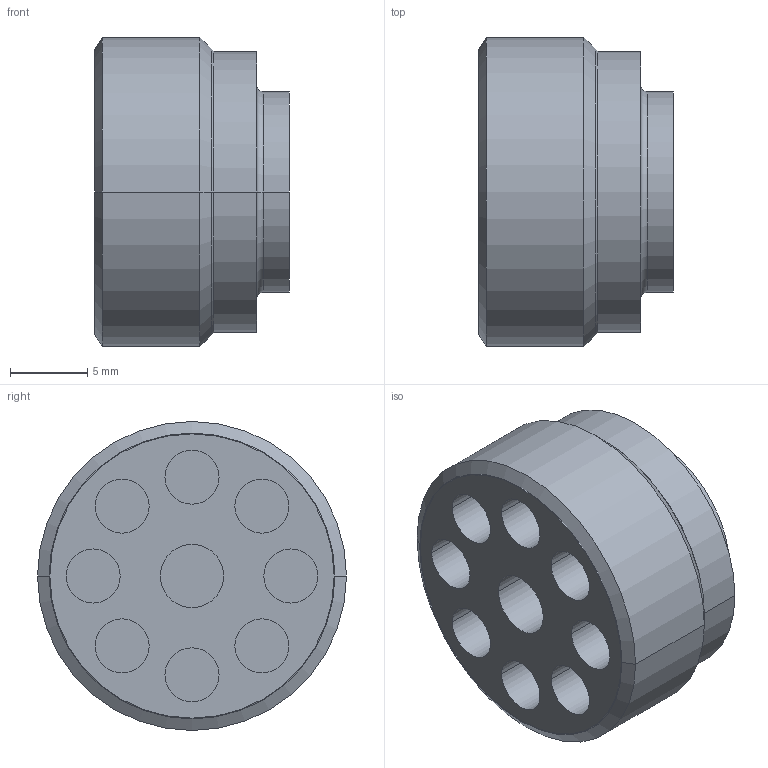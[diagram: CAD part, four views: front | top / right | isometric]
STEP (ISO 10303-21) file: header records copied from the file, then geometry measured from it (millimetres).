
FILE_DESCRIPTION((''),'2;1');
FILE_NAME('VJO1-10_SM-005','2020-11-27T',('l.soukupova'),(''),'PRO/ENGINEER BY PARAMETRIC TECHNOLOGY CORPORATION, 2015440','PRO/ENGINEER BY PARAMETRIC TECHNOLOGY CORPORATION, 2015440','');
FILE_SCHEMA(('AUTOMOTIVE_DESIGN { 1 0 10303 214 1 1 1 1 }'));
Length unit declared in the file: millimetre
Products named in the file (1): VJO1-10_SM-005
Bounding box: 12.6 x 20 x 20 mm (x, y, z)
Volume: 2544.6 mm3; surface area: 2513.3 mm2
Topology: 1 solids, 2 shells, 47 faces, 105 edges, 82 vertices
Faces by surface type: cylinder 28, plane 13, cone 4, torus 2
Entity records: 1714 total; most frequent: DIRECTION 263, CARTESIAN_POINT 215, ORIENTED_EDGE 184, AXIS2_PLACEMENT_3D 110, PRESENTATION_STYLE_ASSIGNMENT 108, STYLED_ITEM 108, CURVE_STYLE 106, EDGE_CURVE 94
